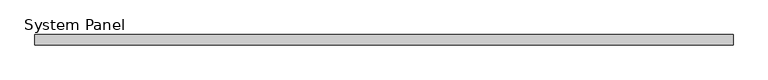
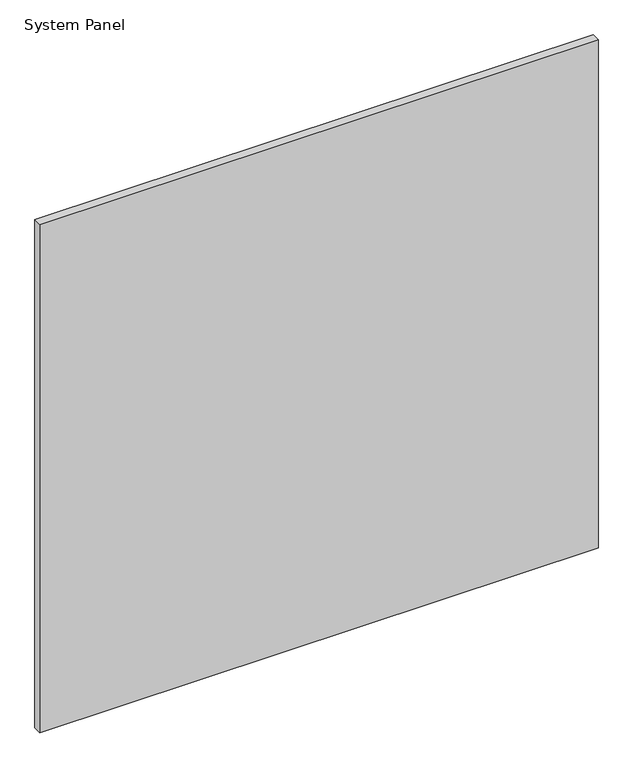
"""IFC4 building model written with IfcOpenShell, lengths in millimetres: plate geometry, System Panel : Panel_Glazed_Generic Showcase_30mm."""

from ifc_helpers import new_model, si_unit, origin, origin_with_axes, place, context, project, spatial, polyline, outline, extrude, source, transform, mapped, element, save


def system_panel_da571503(model_context):
    return source(origin(), model_context, "Body", "SweptSolid", [
        extrude(outline(polyline([(1012.5, -30.0), (-1012.5, -30.0), (-1012.5, 0.0), (1012.5, 0.0), (1012.5, -30.0)])), origin_with_axes(), (0.0, 0.0, 1.0), 1950.0),
    ])


if __name__ == "__main__":
    model = new_model("IFC4")
    model_context = context("Model", 3, world=origin())
    ifc_project = project(units=[si_unit("LENGTHUNIT", "METRE", prefix="MILLI")], contexts=[model_context])
    site = spatial("IfcSite", under=ifc_project)
    building = spatial("IfcBuilding", under=site)
    placement = place(None, origin())
    system_panel_shape = system_panel_da571503(model_context)
    element("IfcPlate", 1, ObjectType="System Panel : Panel_Glazed_Generic Showcase_30mm", at=placement, inside=building, context=model_context, shape_type="MappedRepresentation", body=[
        mapped(system_panel_shape, transform((0.0, 0.0, 0.0), x_axis=(1.0, 0.0, 0.0), y_axis=(0.0, 1.0, 0.0), z_axis=(0.0, 0.0, 1.0))),
    ])
    save(model, "model.ifc")
